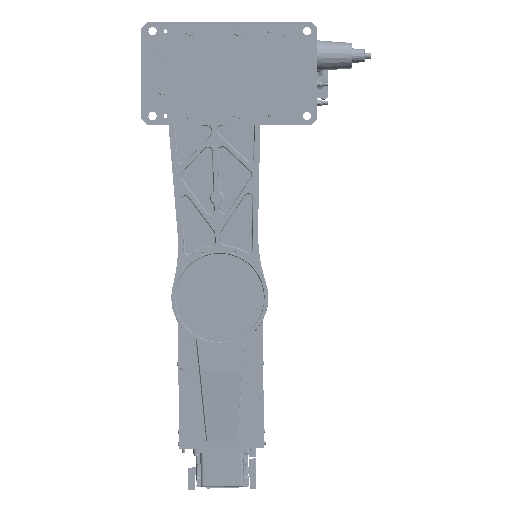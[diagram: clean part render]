
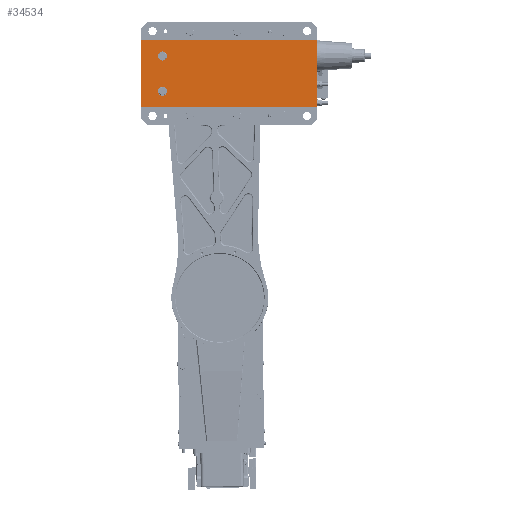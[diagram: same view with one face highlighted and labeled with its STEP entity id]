
A CAD part, front view. The second image highlights one B-rep face of the part: STEP entity #34534.
In plain terms, the highlighted planar face has unit normal (0, -1, 0).
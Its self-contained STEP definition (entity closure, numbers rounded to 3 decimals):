
#12465 = CARTESIAN_POINT ( 'NONE',  ( -110., 1., -29. ) ) ;
#12918 = ORIENTED_EDGE ( 'NONE', *, *, #177956, .T. ) ;
#14197 = VERTEX_POINT ( 'NONE', #373119 ) ;
#17759 = DIRECTION ( 'NONE',  ( 0., 1., 0. ) ) ;
#26551 = AXIS2_PLACEMENT_3D ( 'NONE', #12465, #196574, #65430 ) ;
#27102 = AXIS2_PLACEMENT_3D ( 'NONE', #356155, #544594, #215033 ) ;
#30977 = DIRECTION ( 'NONE',  ( 0., 0., -1. ) ) ;
#34534 = ADVANCED_FACE ( 'NONE', ( #373114, #607619, #314305 ), #111511, .T. ) ;
#38693 = DIRECTION ( 'NONE',  ( -1., 0., 0. ) ) ;
#48627 = VECTOR ( 'NONE', #358424, 1000. ) ;
#65430 = DIRECTION ( 'NONE',  ( 0., 0., -1. ) ) ;
#76170 = CARTESIAN_POINT ( 'NONE',  ( 145., 1., -75. ) ) ;
#83835 = EDGE_LOOP ( 'NONE', ( #460701, #166753, #428503, #275652 ) ) ;
#107725 = LINE ( 'NONE', #360267, #458952 ) ;
#108005 = EDGE_CURVE ( 'NONE', #396116, #471721, #107725, .T. ) ;
#111403 = VERTEX_POINT ( 'NONE', #383993 ) ;
#111511 = PLANE ( 'NONE',  #27102 ) ;
#115576 = LINE ( 'NONE', #162379, #444947 ) ;
#123149 = EDGE_LOOP ( 'NONE', ( #166828, #280266 ) ) ;
#131759 = EDGE_CURVE ( 'NONE', #232228, #14197, #175924, .T. ) ;
#152500 = EDGE_CURVE ( 'NONE', #564454, #488095, #429594, .T. ) ;
#162379 = CARTESIAN_POINT ( 'NONE',  ( 145., 1., -55. ) ) ;
#166753 = ORIENTED_EDGE ( 'NONE', *, *, #190534, .T. ) ;
#166828 = ORIENTED_EDGE ( 'NONE', *, *, #131759, .T. ) ;
#169681 = DIRECTION ( 'NONE',  ( 0., 1., 0. ) ) ;
#174189 = EDGE_CURVE ( 'NONE', #14197, #232228, #252791, .T. ) ;
#175924 = CIRCLE ( 'NONE', #385234, 7.5 ) ;
#177956 = EDGE_CURVE ( 'NONE', #111403, #196717, #484192, .T. ) ;
#190534 = EDGE_CURVE ( 'NONE', #488095, #396116, #423757, .T. ) ;
#191096 = CARTESIAN_POINT ( 'NONE',  ( 145., 1., -55. ) ) ;
#196574 = DIRECTION ( 'NONE',  ( 0., 1., 0. ) ) ;
#196717 = VERTEX_POINT ( 'NONE', #602621 ) ;
#215033 = DIRECTION ( 'NONE',  ( 0., 0., -1. ) ) ;
#232228 = VERTEX_POINT ( 'NONE', #507463 ) ;
#252791 = CIRCLE ( 'NONE', #360707, 7.5 ) ;
#252862 = DIRECTION ( 'NONE',  ( 0., 0., -1. ) ) ;
#262601 = CARTESIAN_POINT ( 'NONE',  ( 145., 1., 55. ) ) ;
#275652 = ORIENTED_EDGE ( 'NONE', *, *, #497756, .T. ) ;
#280266 = ORIENTED_EDGE ( 'NONE', *, *, #174189, .T. ) ;
#287665 = EDGE_LOOP ( 'NONE', ( #491984, #12918 ) ) ;
#299164 = VECTOR ( 'NONE', #38693, 1000. ) ;
#314305 = FACE_BOUND ( 'NONE', #287665, .T. ) ;
#319641 = CIRCLE ( 'NONE', #557778, 7.5 ) ;
#356155 = CARTESIAN_POINT ( 'NONE',  ( 145., 1., 55. ) ) ;
#358424 = DIRECTION ( 'NONE',  ( 0., 0., 1. ) ) ;
#360267 = CARTESIAN_POINT ( 'NONE',  ( -145., 1., 75. ) ) ;
#360707 = AXIS2_PLACEMENT_3D ( 'NONE', #506249, #418125, #366973 ) ;
#366973 = DIRECTION ( 'NONE',  ( 0., 0., -1. ) ) ;
#373114 = FACE_OUTER_BOUND ( 'NONE', #83835, .T. ) ;
#373119 = CARTESIAN_POINT ( 'NONE',  ( -110., 1., 36.5 ) ) ;
#383993 = CARTESIAN_POINT ( 'NONE',  ( -110., 1., -21.5 ) ) ;
#385234 = AXIS2_PLACEMENT_3D ( 'NONE', #486291, #17759, #252862 ) ;
#393677 = DIRECTION ( 'NONE',  ( 1., 0., 0. ) ) ;
#396116 = VERTEX_POINT ( 'NONE', #578702 ) ;
#418125 = DIRECTION ( 'NONE',  ( 0., 1., 0. ) ) ;
#423757 = LINE ( 'NONE', #513403, #299164 ) ;
#428503 = ORIENTED_EDGE ( 'NONE', *, *, #108005, .T. ) ;
#429594 = LINE ( 'NONE', #76170, #48627 ) ;
#444947 = VECTOR ( 'NONE', #393677, 1000. ) ;
#458952 = VECTOR ( 'NONE', #30977, 1000. ) ;
#460701 = ORIENTED_EDGE ( 'NONE', *, *, #152500, .T. ) ;
#471721 = VERTEX_POINT ( 'NONE', #499800 ) ;
#484192 = CIRCLE ( 'NONE', #26551, 7.5 ) ;
#486291 = CARTESIAN_POINT ( 'NONE',  ( -110., 1., 29. ) ) ;
#488095 = VERTEX_POINT ( 'NONE', #262601 ) ;
#491984 = ORIENTED_EDGE ( 'NONE', *, *, #566358, .T. ) ;
#495073 = DIRECTION ( 'NONE',  ( 0., 0., -1. ) ) ;
#497756 = EDGE_CURVE ( 'NONE', #471721, #564454, #115576, .T. ) ;
#499800 = CARTESIAN_POINT ( 'NONE',  ( -145., 1., -55. ) ) ;
#506249 = CARTESIAN_POINT ( 'NONE',  ( -110., 1., 29. ) ) ;
#507463 = CARTESIAN_POINT ( 'NONE',  ( -110., 1., 21.5 ) ) ;
#513403 = CARTESIAN_POINT ( 'NONE',  ( -145., 1., 55. ) ) ;
#540258 = CARTESIAN_POINT ( 'NONE',  ( -110., 1., -29. ) ) ;
#544594 = DIRECTION ( 'NONE',  ( 0., -1., 0. ) ) ;
#557778 = AXIS2_PLACEMENT_3D ( 'NONE', #540258, #169681, #495073 ) ;
#564454 = VERTEX_POINT ( 'NONE', #191096 ) ;
#566358 = EDGE_CURVE ( 'NONE', #196717, #111403, #319641, .T. ) ;
#578702 = CARTESIAN_POINT ( 'NONE',  ( -145., 1., 55. ) ) ;
#602621 = CARTESIAN_POINT ( 'NONE',  ( -110., 1., -36.5 ) ) ;
#607619 = FACE_BOUND ( 'NONE', #123149, .T. ) ;
